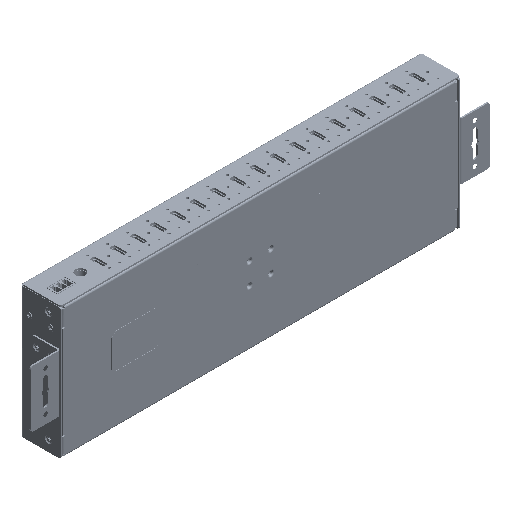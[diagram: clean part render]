
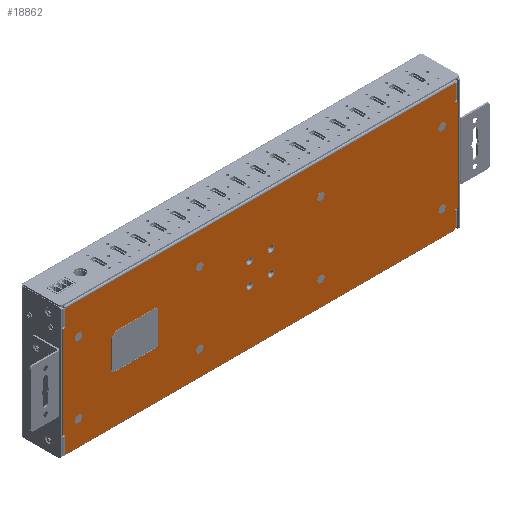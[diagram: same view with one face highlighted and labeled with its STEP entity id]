
A CAD part, isometric view. The second image highlights one B-rep face of the part: STEP entity #18862.
In plain terms, the highlighted planar face has unit normal (0, -1, 0).
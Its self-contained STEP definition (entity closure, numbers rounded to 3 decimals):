
#1559=FACE_BOUND('',#4482,.T.);
#1560=FACE_BOUND('',#4483,.T.);
#1561=FACE_BOUND('',#4484,.T.);
#1562=FACE_BOUND('',#4485,.T.);
#1563=FACE_BOUND('',#4486,.T.);
#2266=CIRCLE('',#20708,0.5);
#2268=CIRCLE('',#20711,0.5);
#2269=CIRCLE('',#20712,0.5);
#2270=CIRCLE('',#20713,0.5);
#2271=CIRCLE('',#20714,0.5);
#2272=CIRCLE('',#20715,0.5);
#2273=CIRCLE('',#20716,0.5);
#2274=CIRCLE('',#20717,0.5);
#2275=CIRCLE('',#20718,2.3);
#2276=CIRCLE('',#20719,2.3);
#2277=CIRCLE('',#20720,2.3);
#2278=CIRCLE('',#20721,2.25);
#2279=CIRCLE('',#20722,2.25);
#2280=CIRCLE('',#20723,2.25);
#2281=CIRCLE('',#20724,2.25);
#3078=FACE_OUTER_BOUND('',#4481,.T.);
#4481=EDGE_LOOP('',(#15803,#15804,#15805,#15806,#15807,#15808,#15809,#15810,
#15811,#15812,#15813,#15814,#15815,#15816,#15817,#15818,#15819,#15820,#15821,
#15822));
#4482=EDGE_LOOP('',(#15823,#15824,#15825,#15826,#15827,#15828,#15829,#15830));
#4483=EDGE_LOOP('',(#15831));
#4484=EDGE_LOOP('',(#15832));
#4485=EDGE_LOOP('',(#15833));
#4486=EDGE_LOOP('',(#15834));
#5955=LINE('',#34211,#7566);
#5964=LINE('',#34350,#7575);
#5965=LINE('',#34354,#7576);
#5966=LINE('',#34356,#7577);
#5967=LINE('',#34358,#7578);
#5968=LINE('',#34362,#7579);
#5969=LINE('',#34366,#7580);
#5970=LINE('',#34370,#7581);
#5971=LINE('',#34374,#7582);
#5972=LINE('',#34376,#7583);
#5973=LINE('',#34378,#7584);
#5974=LINE('',#34381,#7585);
#5975=LINE('',#34386,#7586);
#5976=LINE('',#34390,#7587);
#5977=LINE('',#34392,#7588);
#5978=LINE('',#34394,#7589);
#5979=LINE('',#34397,#7590);
#7566=VECTOR('',#24886,273.4);
#7575=VECTOR('',#24911,10.5);
#7576=VECTOR('',#24914,1.5);
#7577=VECTOR('',#24915,64.7);
#7578=VECTOR('',#24916,1.5);
#7579=VECTOR('',#24919,10.5);
#7580=VECTOR('',#24922,273.4);
#7581=VECTOR('',#24925,10.5);
#7582=VECTOR('',#24928,1.5);
#7583=VECTOR('',#24929,64.7);
#7584=VECTOR('',#24930,1.5);
#7585=VECTOR('',#24933,10.5);
#7586=VECTOR('',#24936,28.5);
#7587=VECTOR('',#24939,19.124);
#7588=VECTOR('',#24940,4.491);
#7589=VECTOR('',#24941,27.624);
#7590=VECTOR('',#24944,20.);
#9356=VERTEX_POINT('',#34178);
#9358=VERTEX_POINT('',#34200);
#9363=VERTEX_POINT('',#34341);
#9365=VERTEX_POINT('',#34347);
#9366=VERTEX_POINT('',#34349);
#9367=VERTEX_POINT('',#34351);
#9368=VERTEX_POINT('',#34353);
#9369=VERTEX_POINT('',#34355);
#9370=VERTEX_POINT('',#34357);
#9371=VERTEX_POINT('',#34359);
#9372=VERTEX_POINT('',#34361);
#9373=VERTEX_POINT('',#34363);
#9374=VERTEX_POINT('',#34365);
#9375=VERTEX_POINT('',#34367);
#9376=VERTEX_POINT('',#34369);
#9377=VERTEX_POINT('',#34371);
#9378=VERTEX_POINT('',#34373);
#9379=VERTEX_POINT('',#34375);
#9380=VERTEX_POINT('',#34377);
#9381=VERTEX_POINT('',#34379);
#9382=VERTEX_POINT('',#34382);
#9383=VERTEX_POINT('',#34383);
#9384=VERTEX_POINT('',#34385);
#9385=VERTEX_POINT('',#34387);
#9386=VERTEX_POINT('',#34389);
#9387=VERTEX_POINT('',#34391);
#9388=VERTEX_POINT('',#34393);
#9389=VERTEX_POINT('',#34395);
#9390=VERTEX_POINT('',#34398);
#9391=VERTEX_POINT('',#34400);
#9392=VERTEX_POINT('',#34402);
#9393=VERTEX_POINT('',#34404);
#11601=EDGE_CURVE('',#9358,#9356,#5955,.T.);
#11612=EDGE_CURVE('',#9363,#9358,#2266,.T.);
#11615=EDGE_CURVE('',#9356,#9365,#2268,.T.);
#11616=EDGE_CURVE('',#9366,#9363,#5964,.T.);
#11617=EDGE_CURVE('',#9367,#9366,#2269,.T.);
#11618=EDGE_CURVE('',#9368,#9367,#5965,.T.);
#11619=EDGE_CURVE('',#9369,#9368,#5966,.T.);
#11620=EDGE_CURVE('',#9369,#9370,#5967,.T.);
#11621=EDGE_CURVE('',#9370,#9371,#2270,.T.);
#11622=EDGE_CURVE('',#9372,#9371,#5968,.T.);
#11623=EDGE_CURVE('',#9373,#9372,#2271,.T.);
#11624=EDGE_CURVE('',#9374,#9373,#5969,.T.);
#11625=EDGE_CURVE('',#9375,#9374,#2272,.T.);
#11626=EDGE_CURVE('',#9376,#9375,#5970,.T.);
#11627=EDGE_CURVE('',#9377,#9376,#2273,.T.);
#11628=EDGE_CURVE('',#9378,#9377,#5971,.T.);
#11629=EDGE_CURVE('',#9379,#9378,#5972,.T.);
#11630=EDGE_CURVE('',#9379,#9380,#5973,.T.);
#11631=EDGE_CURVE('',#9380,#9381,#2274,.T.);
#11632=EDGE_CURVE('',#9365,#9381,#5974,.T.);
#11633=EDGE_CURVE('',#9382,#9383,#2275,.T.);
#11634=EDGE_CURVE('',#9384,#9382,#5975,.T.);
#11635=EDGE_CURVE('',#9385,#9384,#2276,.T.);
#11636=EDGE_CURVE('',#9386,#9385,#5976,.T.);
#11637=EDGE_CURVE('',#9387,#9386,#5977,.T.);
#11638=EDGE_CURVE('',#9388,#9387,#5978,.T.);
#11639=EDGE_CURVE('',#9389,#9388,#2277,.T.);
#11640=EDGE_CURVE('',#9383,#9389,#5979,.T.);
#11641=EDGE_CURVE('',#9390,#9390,#2278,.T.);
#11642=EDGE_CURVE('',#9391,#9391,#2279,.T.);
#11643=EDGE_CURVE('',#9392,#9392,#2280,.T.);
#11644=EDGE_CURVE('',#9393,#9393,#2281,.T.);
#15803=ORIENTED_EDGE('',*,*,#11615,.F.);
#15804=ORIENTED_EDGE('',*,*,#11601,.F.);
#15805=ORIENTED_EDGE('',*,*,#11612,.F.);
#15806=ORIENTED_EDGE('',*,*,#11616,.F.);
#15807=ORIENTED_EDGE('',*,*,#11617,.F.);
#15808=ORIENTED_EDGE('',*,*,#11618,.F.);
#15809=ORIENTED_EDGE('',*,*,#11619,.F.);
#15810=ORIENTED_EDGE('',*,*,#11620,.T.);
#15811=ORIENTED_EDGE('',*,*,#11621,.T.);
#15812=ORIENTED_EDGE('',*,*,#11622,.F.);
#15813=ORIENTED_EDGE('',*,*,#11623,.F.);
#15814=ORIENTED_EDGE('',*,*,#11624,.F.);
#15815=ORIENTED_EDGE('',*,*,#11625,.F.);
#15816=ORIENTED_EDGE('',*,*,#11626,.F.);
#15817=ORIENTED_EDGE('',*,*,#11627,.F.);
#15818=ORIENTED_EDGE('',*,*,#11628,.F.);
#15819=ORIENTED_EDGE('',*,*,#11629,.F.);
#15820=ORIENTED_EDGE('',*,*,#11630,.T.);
#15821=ORIENTED_EDGE('',*,*,#11631,.T.);
#15822=ORIENTED_EDGE('',*,*,#11632,.F.);
#15823=ORIENTED_EDGE('',*,*,#11633,.F.);
#15824=ORIENTED_EDGE('',*,*,#11634,.F.);
#15825=ORIENTED_EDGE('',*,*,#11635,.F.);
#15826=ORIENTED_EDGE('',*,*,#11636,.F.);
#15827=ORIENTED_EDGE('',*,*,#11637,.F.);
#15828=ORIENTED_EDGE('',*,*,#11638,.F.);
#15829=ORIENTED_EDGE('',*,*,#11639,.F.);
#15830=ORIENTED_EDGE('',*,*,#11640,.F.);
#15831=ORIENTED_EDGE('',*,*,#11641,.F.);
#15832=ORIENTED_EDGE('',*,*,#11642,.F.);
#15833=ORIENTED_EDGE('',*,*,#11643,.F.);
#15834=ORIENTED_EDGE('',*,*,#11644,.F.);
#18081=PLANE('',#20710);
#18862=ADVANCED_FACE('',(#3078,#1559,#1560,#1561,#1562,#1563),#18081,.F.);
#20708=AXIS2_PLACEMENT_3D('',#34342,#24902,#24903);
#20710=AXIS2_PLACEMENT_3D('',#34346,#24907,#24908);
#20711=AXIS2_PLACEMENT_3D('',#34348,#24909,#24910);
#20712=AXIS2_PLACEMENT_3D('',#34352,#24912,#24913);
#20713=AXIS2_PLACEMENT_3D('',#34360,#24917,#24918);
#20714=AXIS2_PLACEMENT_3D('',#34364,#24920,#24921);
#20715=AXIS2_PLACEMENT_3D('',#34368,#24923,#24924);
#20716=AXIS2_PLACEMENT_3D('',#34372,#24926,#24927);
#20717=AXIS2_PLACEMENT_3D('',#34380,#24931,#24932);
#20718=AXIS2_PLACEMENT_3D('',#34384,#24934,#24935);
#20719=AXIS2_PLACEMENT_3D('',#34388,#24937,#24938);
#20720=AXIS2_PLACEMENT_3D('',#34396,#24942,#24943);
#20721=AXIS2_PLACEMENT_3D('',#34399,#24945,#24946);
#20722=AXIS2_PLACEMENT_3D('',#34401,#24947,#24948);
#20723=AXIS2_PLACEMENT_3D('',#34403,#24949,#24950);
#20724=AXIS2_PLACEMENT_3D('',#34405,#24951,#24952);
#24886=DIRECTION('',(-1.,0.,0.));
#24902=DIRECTION('center_axis',(0.,-1.,0.));
#24903=DIRECTION('ref_axis',(0.,0.,1.));
#24907=DIRECTION('center_axis',(0.,1.,0.));
#24908=DIRECTION('ref_axis',(1.,0.,0.));
#24909=DIRECTION('center_axis',(0.,-1.,0.));
#24910=DIRECTION('ref_axis',(1.,0.,0.));
#24911=DIRECTION('',(0.,0.,-1.));
#24912=DIRECTION('center_axis',(0.,-1.,0.));
#24913=DIRECTION('ref_axis',(0.,0.,1.));
#24914=DIRECTION('',(-1.,0.,0.));
#24915=DIRECTION('',(0.,0.,-1.));
#24916=DIRECTION('',(-1.,0.,0.));
#24917=DIRECTION('center_axis',(0.,1.,0.));
#24918=DIRECTION('ref_axis',(0.,0.,-1.));
#24919=DIRECTION('',(0.,0.,-1.));
#24920=DIRECTION('center_axis',(0.,-1.,0.));
#24921=DIRECTION('ref_axis',(-1.,0.,0.));
#24922=DIRECTION('',(1.,0.,0.));
#24923=DIRECTION('center_axis',(0.,-1.,0.));
#24924=DIRECTION('ref_axis',(0.,0.,-1.));
#24925=DIRECTION('',(0.,0.,1.));
#24926=DIRECTION('center_axis',(0.,-1.,0.));
#24927=DIRECTION('ref_axis',(0.,0.,-1.));
#24928=DIRECTION('',(1.,0.,0.));
#24929=DIRECTION('',(0.,0.,1.));
#24930=DIRECTION('',(1.,0.,0.));
#24931=DIRECTION('center_axis',(0.,1.,0.));
#24932=DIRECTION('ref_axis',(0.,0.,1.));
#24933=DIRECTION('',(0.,0.,1.));
#24934=DIRECTION('center_axis',(0.,-1.,0.));
#24935=DIRECTION('ref_axis',(0.,0.,-1.));
#24936=DIRECTION('',(1.,0.,0.));
#24937=DIRECTION('center_axis',(0.,-1.,0.));
#24938=DIRECTION('ref_axis',(-1.,0.,0.));
#24939=DIRECTION('',(0.,0.,-1.));
#24940=DIRECTION('',(-0.707,0.,-0.707));
#24941=DIRECTION('',(-1.,0.,0.));
#24942=DIRECTION('center_axis',(0.,-1.,0.));
#24943=DIRECTION('ref_axis',(1.,0.,0.));
#24944=DIRECTION('',(0.,0.,1.));
#24945=DIRECTION('center_axis',(0.,-1.,0.));
#24946=DIRECTION('ref_axis',(-1.,0.,0.));
#24947=DIRECTION('center_axis',(0.,-1.,0.));
#24948=DIRECTION('ref_axis',(1.,0.,0.));
#24949=DIRECTION('center_axis',(0.,-1.,0.));
#24950=DIRECTION('ref_axis',(1.,0.,0.));
#24951=DIRECTION('center_axis',(0.,-1.,0.));
#24952=DIRECTION('ref_axis',(-1.,0.,0.));
#34178=CARTESIAN_POINT('',(-136.7,0.,-45.));
#34200=CARTESIAN_POINT('',(136.7,0.,-45.));
#34211=CARTESIAN_POINT('',(136.7,0.,-45.));
#34341=CARTESIAN_POINT('',(137.2,0.,-44.5));
#34342=CARTESIAN_POINT('Origin',(137.2,0.,-45.));
#34346=CARTESIAN_POINT('Origin',(0.,0.,0.));
#34347=CARTESIAN_POINT('',(-137.2,0.,-44.5));
#34348=CARTESIAN_POINT('Origin',(-137.2,0.,-45.));
#34349=CARTESIAN_POINT('',(137.2,0.,-34.));
#34350=CARTESIAN_POINT('',(137.2,0.,-34.));
#34351=CARTESIAN_POINT('',(137.2,0.,-33.));
#34352=CARTESIAN_POINT('Origin',(137.2,0.,-33.5));
#34353=CARTESIAN_POINT('',(138.7,0.,-33.));
#34354=CARTESIAN_POINT('',(138.7,0.,-33.));
#34355=CARTESIAN_POINT('',(138.7,0.,31.7));
#34356=CARTESIAN_POINT('',(138.7,0.,31.7));
#34357=CARTESIAN_POINT('',(137.2,0.,31.7));
#34358=CARTESIAN_POINT('',(138.7,0.,31.7));
#34359=CARTESIAN_POINT('',(137.2,0.,32.7));
#34360=CARTESIAN_POINT('Origin',(137.2,0.,32.2));
#34361=CARTESIAN_POINT('',(137.2,0.,43.2));
#34362=CARTESIAN_POINT('',(137.2,0.,43.2));
#34363=CARTESIAN_POINT('',(136.7,0.,43.7));
#34364=CARTESIAN_POINT('Origin',(137.2,0.,43.7));
#34365=CARTESIAN_POINT('',(-136.7,0.,43.7));
#34366=CARTESIAN_POINT('',(-136.7,0.,43.7));
#34367=CARTESIAN_POINT('',(-137.2,0.,43.2));
#34368=CARTESIAN_POINT('Origin',(-137.2,0.,43.7));
#34369=CARTESIAN_POINT('',(-137.2,0.,32.7));
#34370=CARTESIAN_POINT('',(-137.2,0.,32.7));
#34371=CARTESIAN_POINT('',(-137.2,0.,31.7));
#34372=CARTESIAN_POINT('Origin',(-137.2,0.,32.2));
#34373=CARTESIAN_POINT('',(-138.7,0.,31.7));
#34374=CARTESIAN_POINT('',(-138.7,0.,31.7));
#34375=CARTESIAN_POINT('',(-138.7,0.,-33.));
#34376=CARTESIAN_POINT('',(-138.7,0.,-33.));
#34377=CARTESIAN_POINT('',(-137.2,0.,-33.));
#34378=CARTESIAN_POINT('',(-138.7,0.,-33.));
#34379=CARTESIAN_POINT('',(-137.2,0.,-34.));
#34380=CARTESIAN_POINT('Origin',(-137.2,0.,-33.5));
#34381=CARTESIAN_POINT('',(-137.2,0.,-44.5));
#34382=CARTESIAN_POINT('',(-73.75,0.,-12.3));
#34383=CARTESIAN_POINT('',(-71.45,0.,-10.));
#34384=CARTESIAN_POINT('Origin',(-73.75,0.,-10.));
#34385=CARTESIAN_POINT('',(-102.25,0.,-12.3));
#34386=CARTESIAN_POINT('',(-102.25,0.,-12.3));
#34387=CARTESIAN_POINT('',(-104.55,0.,-10.));
#34388=CARTESIAN_POINT('Origin',(-102.25,0.,-10.));
#34389=CARTESIAN_POINT('',(-104.55,0.,9.124));
#34390=CARTESIAN_POINT('',(-104.55,0.,9.124));
#34391=CARTESIAN_POINT('',(-101.374,0.,12.3));
#34392=CARTESIAN_POINT('',(-101.374,0.,12.3));
#34393=CARTESIAN_POINT('',(-73.75,0.,12.3));
#34394=CARTESIAN_POINT('',(-73.75,0.,12.3));
#34395=CARTESIAN_POINT('',(-71.45,0.,10.));
#34396=CARTESIAN_POINT('Origin',(-73.75,0.,10.));
#34397=CARTESIAN_POINT('',(-71.45,0.,-10.));
#34398=CARTESIAN_POINT('',(5.25,0.,7.5));
#34399=CARTESIAN_POINT('Origin',(7.5,0.,7.5));
#34400=CARTESIAN_POINT('',(9.75,0.,-7.5));
#34401=CARTESIAN_POINT('Origin',(7.5,0.,-7.5));
#34402=CARTESIAN_POINT('',(-5.25,0.,7.5));
#34403=CARTESIAN_POINT('Origin',(-7.5,0.,7.5));
#34404=CARTESIAN_POINT('',(-9.75,0.,-7.5));
#34405=CARTESIAN_POINT('Origin',(-7.5,0.,-7.5));
